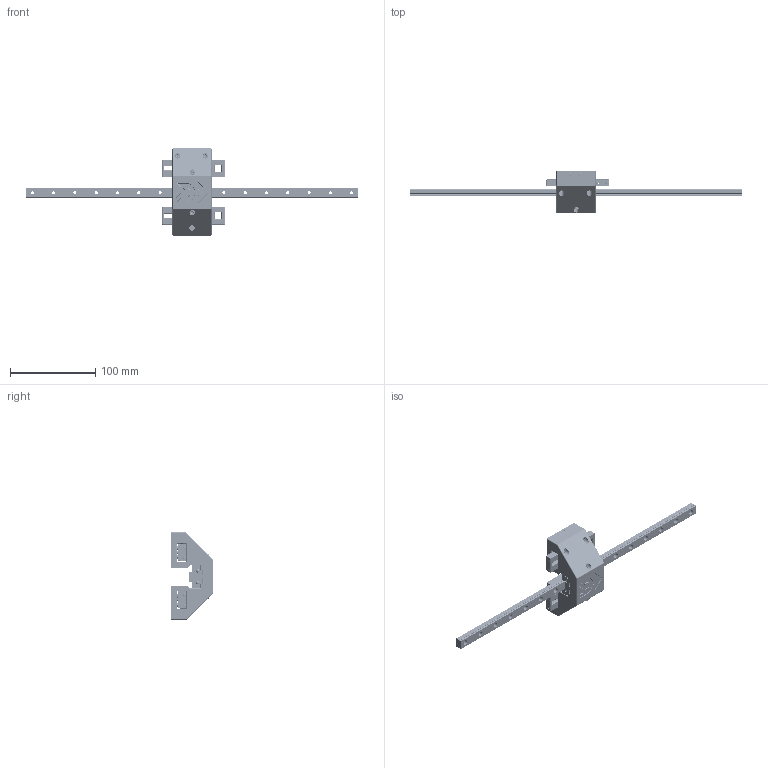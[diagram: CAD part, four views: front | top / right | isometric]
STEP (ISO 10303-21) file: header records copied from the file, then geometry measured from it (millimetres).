
FILE_DESCRIPTION(/* description */ (''),/* implementation_level */ '2;1');
FILE_NAME(/* name */ 'Carriage v33.step',/* time_stamp */ '2024-04-15T01:43:26+07:00',/* author */ (''),/* organization */ (''),/* preprocessor_version */ 'ST-DEVELOPER v20',/* originating_system */ 'Autodesk Translation Framework v12.20.1.177',/* authorisation */ '');
FILE_SCHEMA (('AUTOMOTIVE_DESIGN { 1 0 10303 214 3 1 1 }'));
Products named in the file (66): Carriage; ToolLock; Hardware; m3 x 15mm shcs (2); m3 x 20mm dowel pin; spring OD6 ID5 (7); m3 x 30mm dowel pin (2); spring OD6 ID5 (3); m3 x 16mm dowel pin (3); m3 x 30mm dowel pin (3); m3 x 15mm shcs (3); m3 x 20mm dowel pin (3); m3 x 30mm dowel pin (5); m3 x 20mm dowel pin (4); m3 x 20mm dowel pin (5); spring OD6 ID5 (1); spring OD6 ID5 (5); m3 x 16mm dowel pin (2); m3 x 30mm dowel pin (7); spring OD6 ID5 (2); m3 x 16mm dowel pin (1); m3 x 16mm dowel pin (5); m3 x 6mm shcs (5); m3 x 30mm dowel pin; m3 x 15mm shcs; m3 x 15mm shcs (1); m3 x 30mm dowel pin (6); m3 x 16mm dowel pin; m3 x 16mm dowel pin (4); spring OD6 ID5 (4); m3 x 20mm dowel pin (1); m3 x 20mm dowel pin (2); spring OD6 ID5 (6); m3 x 30mm dowel pin (1); m3 x 30mm dowel pin (4); spring OD6 ID5; m3 x 6mm shcs (3); m3 x 6mm shcs (2); m3 x 20mm shcs (2); m3 x 6mm shcs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
Assembly tree (65 placements, depth 4):
  Carriage
    ToolLock
      Hardware
        m3 x 15mm shcs (2)
        m3 x 20mm dowel pin
        spring OD6 ID5 (7)
        m3 x 30mm dowel pin (2)
        spring OD6 ID5 (3)
        m3 x 16mm dowel pin (3)
        m3 x 30mm dowel pin (3)
        m3 x 15mm shcs (3)
        m3 x 20mm dowel pin (3)
        m3 x 30mm dowel pin (5)
        m3 x 20mm dowel pin (4)
        m3 x 20mm dowel pin (5)
        spring OD6 ID5 (1)
        spring OD6 ID5 (5)
        m3 x 16mm dowel pin (2)
        m3 x 30mm dowel pin (7)
        spring OD6 ID5 (2)
        m3 x 16mm dowel pin (1)
        m3 x 16mm dowel pin (5)
        m3 x 6mm shcs (5)
        m3 x 30mm dowel pin
        m3 x 15mm shcs
        m3 x 15mm shcs (1)
        m3 x 30mm dowel pin (6)
        m3 x 16mm dowel pin
        m3 x 16mm dowel pin (4)
        spring OD6 ID5 (4)
        m3 x 20mm dowel pin (1)
        m3 x 20mm dowel pin (2)
        spring OD6 ID5 (6)
        m3 x 30mm dowel pin (1)
        m3 x 30mm dowel pin (4)
        spring OD6 ID5
        m3 x 6mm shcs (3)
        m3 x 6mm shcs (2)
        m3 x 20mm shcs (2)
        m3 x 6mm shcs
        m3 x 6mm shcs (1)
        m3 hex nut
        m3 hex nut (4)
        m3 brass insert (1)
        m3 hex nut (3)
        m3 x 20mm shcs
        m3 x 20mm shcs (1)
        m3 x 6mm shcs (4)
        m3 brass insert
        m3 square nut (2)
        m3 square nut (3)
        m3 square nut
        m3 square nut (1)
        4 x 4mm magnet
      Printed Parts
        carriage-mgn12-integrated-belt-groove
        lock-body-slider x 2
        lock-body-slider x 2 (1)
        spring-spacer-bottom
        spring-spacer-top
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Bounding box: 390 x 50.34 x 103.23 mm (x, y, z)
Volume: 162985.8 mm3; surface area: 94943.7 mm2
Topology: 69 solids, 69 shells, 2637 faces, 6816 edges, 4394 vertices
Faces by surface type: plane 1030, cylinder 1013, bspline 258, cone 200, sphere 75, torus 61
Full cylindrical faces by diameter (mm): 2.376 x20, 2.5 x19, 2.529 x12, 3 x226, 3.086 x12, 3.2 x24, 3.4 x20, 3.5 x16, 3.505 x2, 3.564 x2, 4 x1, 4.2 x5, 4.5 x11, 4.751 x2, 5.58 x13, 5.68 x13, 6 x16, 6.5 x19, 8 x3
Entity records: 254068 total; most frequent: CARTESIAN_POINT 189950, ORIENTED_EDGE 13624, DIRECTION 12117, EDGE_CURVE 6812, VERTEX_POINT 4394, AXIS2_PLACEMENT_3D 4394, LINE 3329, VECTOR 3329
